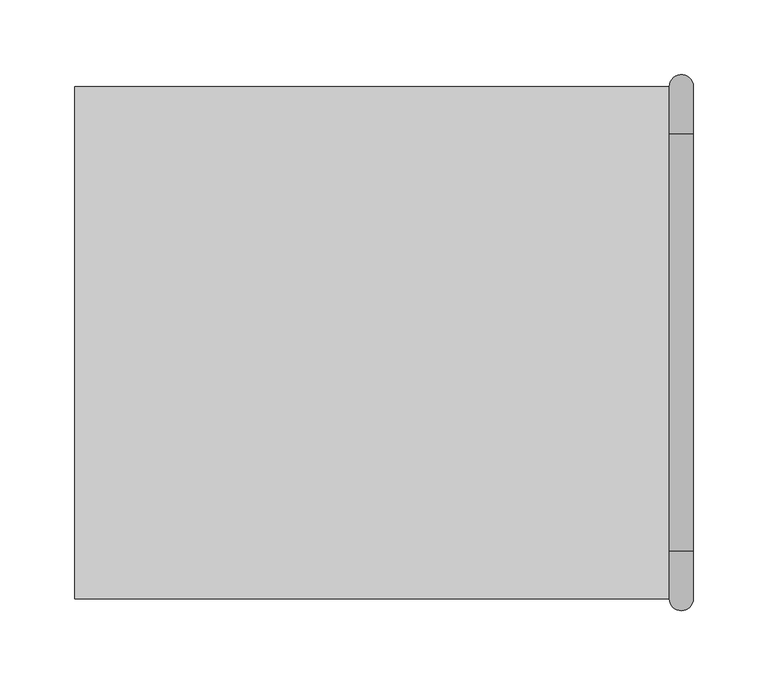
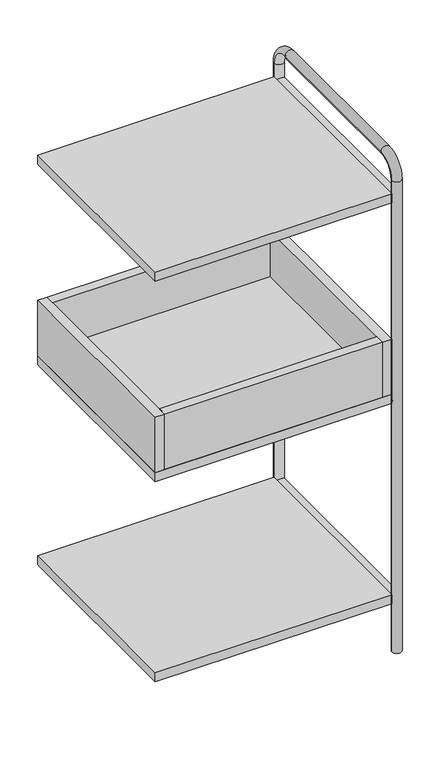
"""IFC4 building model written with IfcOpenShell, lengths in millimetres: furniture geometry, Tubbe Bookcase_Intermediate Unit_2x1 : Tubbe Bookcase_Intermediate Unit_2x1_2x2."""

from ifc_helpers import new_model, si_unit, point, frame, frame_2d, origin, place, context, project, spatial, polyline, circle_curve, ellipse_curve, trimmed, segment, composite_curve, outline, extrude, source, transform, mapped, element, save
from ifc_brep_helpers import plane_surface, cylinder_surface, revolved_surface, advanced_brep


def furniture_0d751dc1(model_context):
    return source(origin(), model_context, "Body", "SolidModel", [
        extrude(outline(polyline([(183.0, 155.5), (183.0, -155.5), (-183.0, -155.5), (-183.0, 155.5), (183.0, 155.5)])), frame((0.0, 0.0, 458.0), z_axis=(0.0, 0.0, 1.0), x_axis=(1.0, 0.0, 0.0)), (0.0, 0.0, 1.0), 16.0),
        extrude(outline(polyline([(183.0, -171.5), (-183.0, -171.5), (-183.0, -155.5), (183.0, -155.5), (183.0, -171.5)])), frame((0.0, 0.0, 458.0), z_axis=(0.0, 0.0, 1.0), x_axis=(1.0, 0.0, 0.0)), (0.0, 0.0, 1.0), 98.0),
        extrude(outline(polyline([(183.0, 155.5), (-183.0, 155.5), (-183.0, 171.5), (183.0, 171.5), (183.0, 155.5)])), frame((0.0, 0.0, 458.0), z_axis=(0.0, 0.0, 1.0), x_axis=(1.0, 0.0, 0.0)), (0.0, 0.0, 1.0), 98.0),
        extrude(outline(polyline([(199.0, 171.5), (199.0, -171.5), (183.0, -171.5), (183.0, 171.5), (199.0, 171.5)])), frame((0.0, 0.0, 458.0), z_axis=(0.0, 0.0, 1.0), x_axis=(1.0, 0.0, 0.0)), (0.0, 0.0, 1.0), 98.0),
        extrude(outline(polyline([(-183.0, 171.5), (-183.0, -171.5), (-199.0, -171.5), (-199.0, 171.5), (-183.0, 171.5)])), frame((0.0, 0.0, 458.0), z_axis=(0.0, 0.0, 1.0), x_axis=(1.0, 0.0, 0.0)), (0.0, 0.0, 1.0), 98.0),
        extrude(outline(polyline([(199.0, 171.5), (199.0, -171.5), (-199.0, -171.5), (-199.0, 171.5), (199.0, 171.5)])), frame((0.0, 0.0, 798.0), z_axis=(0.0, 0.0, 1.0), x_axis=(1.0, 0.0, 0.0)), (0.0, 0.0, 1.0), 16.0),
        extrude(outline(polyline([(199.0, 171.5), (199.0, -171.5), (-199.0, -171.5), (-199.0, 171.5), (199.0, 171.5)])), frame((0.0, 0.0, 442.0), z_axis=(0.0, 0.0, 1.0), x_axis=(1.0, 0.0, 0.0)), (0.0, 0.0, 1.0), 16.0),
        extrude(outline(polyline([(199.0, 171.5), (199.0, -171.5), (-199.0, -171.5), (-199.0, 171.5), (199.0, 171.5)])), frame((0.0, 0.0, 86.0), z_axis=(0.0, 0.0, 1.0), x_axis=(1.0, 0.0, 0.0)), (0.0, 0.0, 1.0), 16.0),
        extrude(outline(composite_curve([segment(trimmed(circle_curve(frame_2d((806.0, 207.0)), 8.0), [point((806.0, 199.0))], [point((806.0, 215.0))], False, "CARTESIAN"), True, "CONTINUOUS"), segment(trimmed(circle_curve(frame_2d((806.0, 207.0)), 8.0), [point((806.0, 215.0))], [point((806.0, 199.0))], False, "CARTESIAN"), True, "CONTINUOUS")], self_intersect=False)), frame((0.0, -171.5, 0.0), z_axis=(0.0, 1.0, 0.0), x_axis=(0.0, 0.0, 1.0)), (0.0, 0.0, 1.0), 343.0),
        extrude(outline(composite_curve([segment(trimmed(circle_curve(frame_2d((450.0, 207.0)), 8.0), [point((450.0, 199.0))], [point((450.0, 215.0))], False, "CARTESIAN"), True, "CONTINUOUS"), segment(trimmed(circle_curve(frame_2d((450.0, 207.0)), 8.0), [point((450.0, 215.0))], [point((450.0, 199.0))], False, "CARTESIAN"), True, "CONTINUOUS")], self_intersect=False)), frame((0.0, -171.5, 0.0), z_axis=(0.0, 1.0, 0.0), x_axis=(0.0, 0.0, 1.0)), (0.0, 0.0, 1.0), 343.0),
        extrude(outline(composite_curve([segment(trimmed(circle_curve(frame_2d((94.0, 207.0)), 8.0), [point((94.0, 199.0))], [point((94.0, 215.0))], False, "CARTESIAN"), True, "CONTINUOUS"), segment(trimmed(circle_curve(frame_2d((94.0, 207.0)), 8.0), [point((94.0, 215.0))], [point((94.0, 199.0))], False, "CARTESIAN"), True, "CONTINUOUS")], self_intersect=False)), frame((0.0, -171.5, 0.0), z_axis=(0.0, 1.0, 0.0), x_axis=(0.0, 0.0, 1.0)), (0.0, 0.0, 1.0), 343.0),
        advanced_brep(
        [(199.0, 171.5, 0.0), (215.0, 171.5, 0.0), (199.0, 171.5, 838.0), (215.0, 171.5, 838.0), (215.0, 139.5, 870.0), (199.0, 139.5, 870.0), (199.0, -139.5, 870.0), (215.0, -139.5, 870.0), (215.0, -171.5, 838.0), (199.0, -171.5, 838.0), (199.0, -171.5, 0.0), (215.0, -171.5, 0.0)],
        [
            (0, 1, circle_curve(frame((207.0, 171.5, 0.0), z_axis=(0.0, 0.0, -1.0), x_axis=(1.0, 0.0, 0.0)), 8.0)),
            (1, 0, circle_curve(frame((207.0, 171.5, 0.0), z_axis=(0.0, 0.0, -1.0), x_axis=(1.0, 0.0, 0.0)), 8.0)),
            (0, 2),
            (2, 3, circle_curve(frame((207.0, 171.5, 838.0), z_axis=(0.0, 0.0, -1.0), x_axis=(1.0, 0.0, 0.0)), 8.0)),
            (3, 1),
            (3, 2, circle_curve(frame((207.0, 171.5, 838.0), z_axis=(0.0, 0.0, -1.0), x_axis=(1.0, 0.0, 0.0)), 8.0)),
            (4, 5, circle_curve(frame((207.0, 139.5, 870.0), z_axis=(0.0, -1.0, 0.0), x_axis=(1.0, 0.0, 0.0)), 8.0)),
            (5, 6),
            (6, 7, circle_curve(frame((207.0, -139.5, 870.0), z_axis=(0.0, 1.0, 0.0), x_axis=(1.0, 0.0, 0.0)), 8.0)),
            (7, 4),
            (5, 4, circle_curve(frame((207.0, 139.5, 870.0), z_axis=(0.0, -1.0, 0.0), x_axis=(1.0, 0.0, 0.0)), 8.0)),
            (7, 6, circle_curve(frame((207.0, -139.5, 870.0), z_axis=(0.0, 1.0, 0.0), x_axis=(1.0, 0.0, 0.0)), 8.0)),
            (8, 7, circle_curve(frame((215.0, -139.5, 838.0), z_axis=(-1.0, 0.0, 0.0), x_axis=(0.0, 0.0, 1.0)), 32.0)),
            (6, 9, circle_curve(frame((199.0, -139.5, 838.0), z_axis=(1.0, 0.0, 0.0), x_axis=(0.0, 0.0, 1.0)), 32.0)),
            (9, 8, circle_curve(frame((207.0, -171.5, 838.0), z_axis=(0.0, 0.0, 1.0), x_axis=(1.0, 0.0, 0.0)), 8.0)),
            (8, 9, circle_curve(frame((207.0, -171.5, 838.0), z_axis=(0.0, 0.0, 1.0), x_axis=(1.0, 0.0, 0.0)), 8.0)),
            (10, 11, circle_curve(frame((207.0, -171.5, 0.0), z_axis=(0.0, 0.0, -1.0), x_axis=(1.0, 0.0, 0.0)), 8.0)),
            (11, 10, circle_curve(frame((207.0, -171.5, 0.0), z_axis=(0.0, 0.0, -1.0), x_axis=(1.0, 0.0, 0.0)), 8.0)),
            (9, 10),
            (11, 8),
            (4, 3, circle_curve(frame((215.0, 139.5, 838.0), z_axis=(-1.0, 0.0, 0.0), x_axis=(0.0, 1.0, 0.0)), 32.0)),
            (2, 5, circle_curve(frame((199.0, 139.5, 838.0), z_axis=(1.0, 0.0, 0.0), x_axis=(0.0, 1.0, 0.0)), 32.0)),
        ],
        [
            plane_surface(frame((207.0, 171.5, 0.0), z_axis=(0.0, 0.0, -1.0), x_axis=(1.0, 0.0, 0.0))),
            cylinder_surface(frame((207.0, 171.5, 0.0), z_axis=(0.0, 0.0, -1.0), x_axis=(1.0, 0.0, 0.0)), 8.0),
            cylinder_surface(frame((207.0, 139.5, 870.0), z_axis=(0.0, 1.0, 0.0), x_axis=(1.0, 0.0, 0.0)), 8.0),
            revolved_surface(trimmed(ellipse_curve(frame((207.0, -139.5, 870.0), z_axis=(0.0, 1.0, 0.0), x_axis=(1.0, 0.0, 0.0)), 8.0, 8.0), [point((199.0, -139.5, 870.0))], [point((215.0, -139.5, 870.0))], True, "CARTESIAN"), (207.0, -139.5, 838.0), (1.0, 0.0, 0.0)),
            revolved_surface(trimmed(ellipse_curve(frame((207.0, -139.5, 870.0), z_axis=(0.0, 1.0, 0.0), x_axis=(1.0, 0.0, 0.0)), 8.0, 8.0), [point((215.0, -139.5, 870.0))], [point((199.0, -139.5, 870.0))], True, "CARTESIAN"), (207.0, -139.5, 838.0), (1.0, 0.0, 0.0)),
            plane_surface(frame((207.0, -171.5, 0.0), z_axis=(0.0, 0.0, -1.0), x_axis=(1.0, 0.0, 0.0))),
            cylinder_surface(frame((207.0, -171.5, 838.0), z_axis=(0.0, 0.0, 1.0), x_axis=(1.0, 0.0, 0.0)), 8.0),
            revolved_surface(trimmed(ellipse_curve(frame((207.0, 171.5, 838.0), z_axis=(0.0, 0.0, -1.0), x_axis=(1.0, 0.0, 0.0)), 8.0, 8.0), [point((199.0, 171.5, 838.0))], [point((215.0, 171.5, 838.0))], True, "CARTESIAN"), (207.0, 139.5, 838.0), (1.0, 0.0, 0.0)),
            revolved_surface(trimmed(ellipse_curve(frame((207.0, 171.5, 838.0), z_axis=(0.0, 0.0, -1.0), x_axis=(1.0, 0.0, 0.0)), 8.0, 8.0), [point((215.0, 171.5, 838.0))], [point((199.0, 171.5, 838.0))], True, "CARTESIAN"), (207.0, 139.5, 838.0), (1.0, 0.0, 0.0)),
        ],
        [
            (0, [[1, 2]]),
            (1, [[-1, 3, 4, 5]]),
            (1, [[-2, -5, 6, -3]]),
            (2, [[7, 8, 9, 10]]),
            (2, [[11, -10, 12, -8]]),
            (3, [[13, -9, 14, 15]]),
            (4, [[-14, -12, -13, 16]]),
            (5, [[17, 18]]),
            (6, [[-15, 19, -18, 20]]),
            (6, [[-16, -20, -17, -19]]),
            (7, [[21, -4, 22, -7]]),
            (8, [[-22, -6, -21, -11]]),
        ],
    ),
    ])


if __name__ == "__main__":
    model = new_model("IFC4")
    model_context = context("Model", 3, world=origin())
    ifc_project = project(units=[si_unit("LENGTHUNIT", "METRE", prefix="MILLI")], contexts=[model_context])
    site = spatial("IfcSite", under=ifc_project)
    building = spatial("IfcBuilding", under=site)
    placement = place(None, origin())
    furniture_shape = furniture_0d751dc1(model_context)
    element("IfcFurniture", 1, ObjectType="Tubbe Bookcase_Intermediate Unit_2x1 : Tubbe Bookcase_Intermediate Unit_2x1_2x2", at=placement, inside=building, context=model_context, shape_type="MappedRepresentation", body=[
        mapped(furniture_shape, transform((0.0, 0.0, 0.0), x_axis=(1.0, 0.0, 0.0), y_axis=(0.0, 1.0, 0.0), z_axis=(0.0, 0.0, 1.0))),
    ])
    save(model, "model.ifc")
